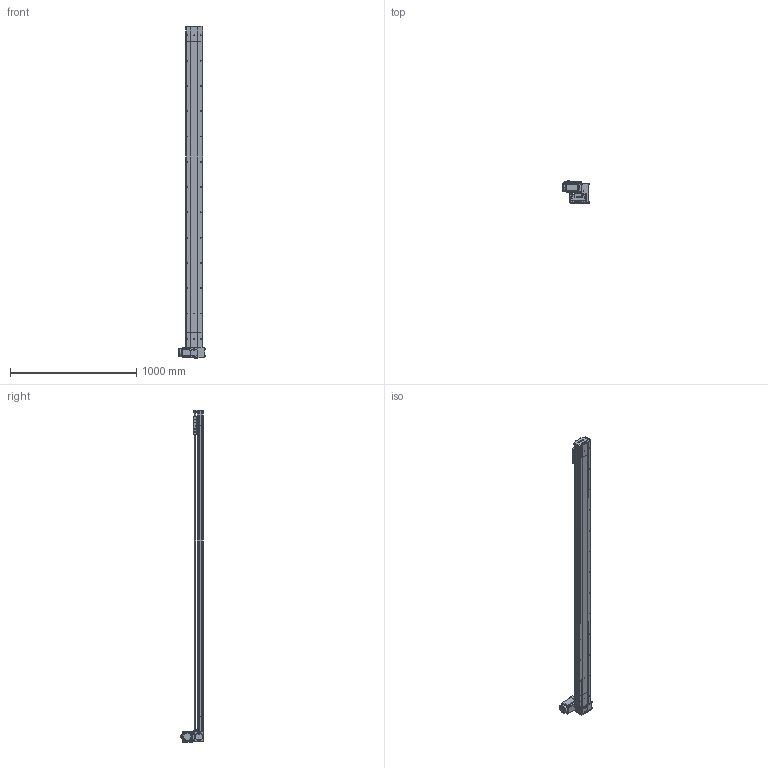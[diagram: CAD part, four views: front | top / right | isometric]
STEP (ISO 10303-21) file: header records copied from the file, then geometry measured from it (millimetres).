
FILE_DESCRIPTION (( 'STEP AP214' ), '1' );
FILE_NAME ('D14 TBH LT S2300.STEP', '2010-06-29T14:27:48', ( 'Conseil Régional Haute-Normandie' ), ( 'Conseil Régional Haute-Normandie' ), 'SwSTEP 2.0', 'SolidWorks 2010', '' );
FILE_SCHEMA (( 'AUTOMOTIVE_DESIGN' ));
Length unit declared in the file: millimetre
Products named in the file (39): guide D14; vis M5 L12_Default; D14 TB H LT_Default; couvercle D14 course L2300_Default; Rail + couroie D14 Course 2300 ; corpl 2300_Default; D14 couroie L2300_Default; plaque de  bout head D14 LT_Default; D14 TBH LT S2300; corpl tail D14_Default; Couroie_Default; poulie tail_Default; Tail D14B_Default; vis M5 L8 90°_Default; couvercle D14_Default; corp head D14_Default; Arbre+rail tail D14; vis M5 L16_Default; tete d''axe haut D14; plaque de  bout tail D14_Default; Vis M5 L16-2_Default; Chariot D14; avant 90BLDC100A-640; Cache arbre_Default; Arbre+rail head D14; chariot D14B_Default; couroie 2_Default; Cvis M5 L70_Default; vis M5 L5_Default; renvoi LH_Default; couvercle D14 head_Default; Moteur motionking 90BLDC100A-640; Cache_Default; Plaque racord D14_Default; Conecteur_Default; poulie head_Default; Conecteur2_Default; codeur 90BLDC100-640; corps 90BLDC100A-640
Assembly tree (68 placements, depth 4):
  D14 TBH LT S2300
    D14 TB H LT_Default
      corp head D14_Default
      couroie 2_Default
      Arbre+rail head D14
      Cvis M5 L70_Default  x4
      plaque de  bout head D14 LT_Default
      vis M5 L12_Default  x12
      vis M5 L5_Default  x2
      renvoi LH_Default
      Plaque racord D14_Default
      Cache arbre_Default
      Vis M5 L16-2_Default  x4
      poulie head_Default
      Cache_Default  x2
      couvercle D14 head_Default
      Moteur motionking 90BLDC100A-640
        corps 90BLDC100A-640
        Conecteur_Default
        avant 90BLDC100A-640
        codeur 90BLDC100-640
        Conecteur2_Default
    D14 couroie L2300_Default
      Rail + couroie D14 Course 2300 
      corpl 2300_Default
      couvercle D14 course L2300_Default
    Tail D14B_Default
      vis M5 L16_Default  x2
      vis M5 L12_Default  x4
      plaque de  bout tail D14_Default
      Couroie_Default
      vis M5 L8 90°_Default  x2
      Arbre+rail tail D14
      corpl tail D14_Default
      tete d''axe haut D14
      couvercle D14_Default
      poulie tail_Default
    chariot D14B_Default
      Chariot D14
      vis M5 L12_Default  x4
      guide D14  x2
Bounding box: 207.2 x 189.1 x 2625.75 mm (x, y, z)
Volume: 10036906.6 mm3; surface area: 3582477.7 mm2
Topology: 92 solids, 92 shells, 2709 faces, 6611 edges, 4266 vertices
Faces by surface type: plane 1609, cylinder 787, bspline 136, torus 89, cone 84, sphere 4
Entity records: 81512 total; most frequent: CARTESIAN_POINT 23925, ORIENTED_EDGE 10082, DIRECTION 9956, EDGE_CURVE 5041, LINE 3334, VECTOR 3334, VERTEX_POINT 3316, AXIS2_PLACEMENT_3D 3311
